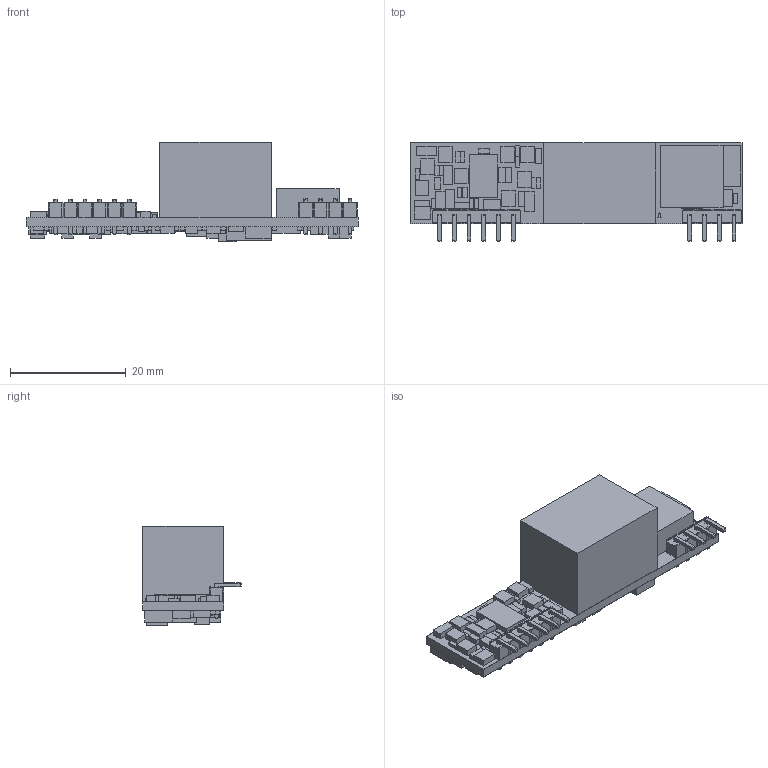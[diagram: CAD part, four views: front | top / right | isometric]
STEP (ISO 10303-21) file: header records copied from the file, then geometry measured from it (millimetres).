
FILE_DESCRIPTION(('FreeCAD Model'),'2;1');
FILE_NAME('Open CASCADE Shape Model','2026-04-21T13:35:10',(''),(''), 'Open CASCADE STEP processor 7.8','FreeCAD','Unknown');
FILE_SCHEMA(('AUTOMOTIVE_DESIGN { 1 0 10303 214 1 1 1 1 }'));
Products named in the file (1): Ag5400_simplified
Bounding box: 57.28 x 17 x 17.11 mm (x, y, z)
Volume: 2747.9 mm3; surface area: 9112.6 mm2
Topology: 61 solids, 123 shells, 3160 faces, 8500 edges, 5527 vertices
Faces by surface type: extrusion 2863, revolution 297
Entity records: 104775 total; most frequent: CARTESIAN_POINT 17533, ORIENTED_EDGE 16940, DIRECTION 15380, VECTOR 13893, LINE 11030, EDGE_CURVE 8476, VERTEX_POINT 5527, FACE_BOUND 3960
